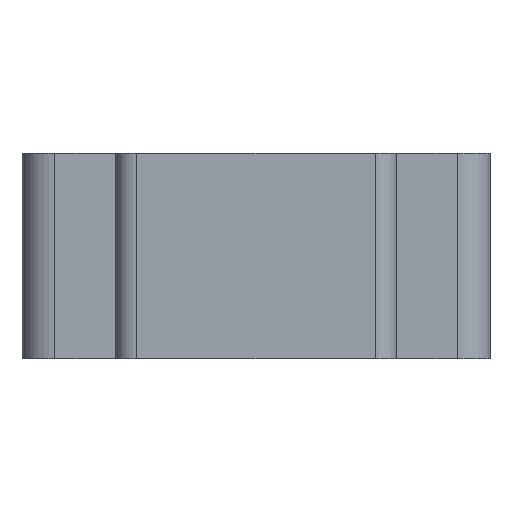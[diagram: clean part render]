
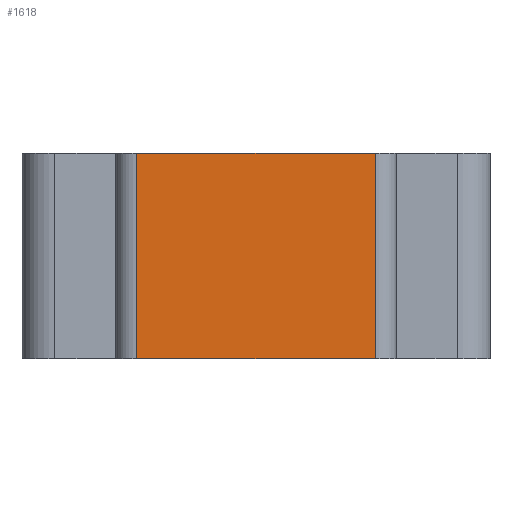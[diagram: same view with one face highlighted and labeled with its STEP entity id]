
A CAD part, front view. The second image highlights one B-rep face of the part: STEP entity #1618.
In plain terms, the highlighted planar face has unit normal (0, -1, 0).
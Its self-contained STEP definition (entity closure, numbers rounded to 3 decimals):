
#44 = PLANE('',#45);
#45 = AXIS2_PLACEMENT_3D('',#46,#47,#48);
#46 = CARTESIAN_POINT('',(-5.,8.3,8.45));
#47 = DIRECTION('',(0.,0.,1.));
#48 = DIRECTION('',(1.,0.,0.));
#100 = PLANE('',#101);
#101 = AXIS2_PLACEMENT_3D('',#102,#103,#104);
#102 = CARTESIAN_POINT('',(-5.,8.3,4.05));
#103 = DIRECTION('',(0.,0.,1.));
#104 = DIRECTION('',(1.,0.,0.));
#256 = VERTEX_POINT('',#257);
#257 = CARTESIAN_POINT('',(-2.55,-13.,8.45));
#272 = CYLINDRICAL_SURFACE('',#273,0.45);
#273 = AXIS2_PLACEMENT_3D('',#274,#275,#276);
#274 = CARTESIAN_POINT('',(-2.55,-12.55,4.05));
#275 = DIRECTION('',(0.,0.,1.));
#276 = DIRECTION('',(-1.,-0.,0.));
#284 = EDGE_CURVE('',#256,#285,#287,.T.);
#285 = VERTEX_POINT('',#286);
#286 = CARTESIAN_POINT('',(2.55,-13.,8.45));
#287 = SURFACE_CURVE('',#288,(#292,#299),.PCURVE_S1.);
#288 = LINE('',#289,#290);
#289 = CARTESIAN_POINT('',(-3.,-13.,8.45));
#290 = VECTOR('',#291,1.);
#291 = DIRECTION('',(1.,0.,0.));
#292 = PCURVE('',#44,#293);
#293 = DEFINITIONAL_REPRESENTATION('',(#294),#298);
#294 = LINE('',#295,#296);
#295 = CARTESIAN_POINT('',(2.,-21.3));
#296 = VECTOR('',#297,1.);
#297 = DIRECTION('',(1.,0.));
#298 = ( GEOMETRIC_REPRESENTATION_CONTEXT(2) 
PARAMETRIC_REPRESENTATION_CONTEXT() REPRESENTATION_CONTEXT('2D SPACE',''
  ) );
#299 = PCURVE('',#300,#305);
#300 = PLANE('',#301);
#301 = AXIS2_PLACEMENT_3D('',#302,#303,#304);
#302 = CARTESIAN_POINT('',(-3.,-13.,4.05));
#303 = DIRECTION('',(0.,1.,0.));
#304 = DIRECTION('',(0.,0.,1.));
#305 = DEFINITIONAL_REPRESENTATION('',(#306),#310);
#306 = LINE('',#307,#308);
#307 = CARTESIAN_POINT('',(4.4,0.));
#308 = VECTOR('',#309,1.);
#309 = DIRECTION('',(0.,1.));
#310 = ( GEOMETRIC_REPRESENTATION_CONTEXT(2) 
PARAMETRIC_REPRESENTATION_CONTEXT() REPRESENTATION_CONTEXT('2D SPACE',''
  ) );
#333 = CYLINDRICAL_SURFACE('',#334,0.45);
#334 = AXIS2_PLACEMENT_3D('',#335,#336,#337);
#335 = CARTESIAN_POINT('',(2.55,-12.55,4.05));
#336 = DIRECTION('',(0.,0.,1.));
#337 = DIRECTION('',(1.,0.,-0.));
#980 = VERTEX_POINT('',#981);
#981 = CARTESIAN_POINT('',(-2.55,-13.,4.05));
#1003 = EDGE_CURVE('',#980,#1004,#1006,.T.);
#1004 = VERTEX_POINT('',#1005);
#1005 = CARTESIAN_POINT('',(2.55,-13.,4.05));
#1006 = SURFACE_CURVE('',#1007,(#1011,#1018),.PCURVE_S1.);
#1007 = LINE('',#1008,#1009);
#1008 = CARTESIAN_POINT('',(-3.,-13.,4.05));
#1009 = VECTOR('',#1010,1.);
#1010 = DIRECTION('',(1.,0.,0.));
#1011 = PCURVE('',#100,#1012);
#1012 = DEFINITIONAL_REPRESENTATION('',(#1013),#1017);
#1013 = LINE('',#1014,#1015);
#1014 = CARTESIAN_POINT('',(2.,-21.3));
#1015 = VECTOR('',#1016,1.);
#1016 = DIRECTION('',(1.,0.));
#1017 = ( GEOMETRIC_REPRESENTATION_CONTEXT(2) 
PARAMETRIC_REPRESENTATION_CONTEXT() REPRESENTATION_CONTEXT('2D SPACE',''
  ) );
#1018 = PCURVE('',#300,#1019);
#1019 = DEFINITIONAL_REPRESENTATION('',(#1020),#1024);
#1020 = LINE('',#1021,#1022);
#1021 = CARTESIAN_POINT('',(0.,0.));
#1022 = VECTOR('',#1023,1.);
#1023 = DIRECTION('',(0.,1.));
#1024 = ( GEOMETRIC_REPRESENTATION_CONTEXT(2) 
PARAMETRIC_REPRESENTATION_CONTEXT() REPRESENTATION_CONTEXT('2D SPACE',''
  ) );
#1569 = EDGE_CURVE('',#980,#256,#1570,.T.);
#1570 = SURFACE_CURVE('',#1571,(#1575,#1582),.PCURVE_S1.);
#1571 = LINE('',#1572,#1573);
#1572 = CARTESIAN_POINT('',(-2.55,-13.,4.05));
#1573 = VECTOR('',#1574,1.);
#1574 = DIRECTION('',(0.,0.,1.));
#1575 = PCURVE('',#272,#1576);
#1576 = DEFINITIONAL_REPRESENTATION('',(#1577),#1581);
#1577 = LINE('',#1578,#1579);
#1578 = CARTESIAN_POINT('',(1.571,0.));
#1579 = VECTOR('',#1580,1.);
#1580 = DIRECTION('',(0.,1.));
#1581 = ( GEOMETRIC_REPRESENTATION_CONTEXT(2) 
PARAMETRIC_REPRESENTATION_CONTEXT() REPRESENTATION_CONTEXT('2D SPACE',''
  ) );
#1582 = PCURVE('',#300,#1583);
#1583 = DEFINITIONAL_REPRESENTATION('',(#1584),#1588);
#1584 = LINE('',#1585,#1586);
#1585 = CARTESIAN_POINT('',(0.,0.45));
#1586 = VECTOR('',#1587,1.);
#1587 = DIRECTION('',(1.,0.));
#1588 = ( GEOMETRIC_REPRESENTATION_CONTEXT(2) 
PARAMETRIC_REPRESENTATION_CONTEXT() REPRESENTATION_CONTEXT('2D SPACE',''
  ) );
#1618 = ADVANCED_FACE('',(#1619),#300,.F.);
#1619 = FACE_BOUND('',#1620,.F.);
#1620 = EDGE_LOOP('',(#1621,#1622,#1623,#1624));
#1621 = ORIENTED_EDGE('',*,*,#1003,.F.);
#1622 = ORIENTED_EDGE('',*,*,#1569,.T.);
#1623 = ORIENTED_EDGE('',*,*,#284,.T.);
#1624 = ORIENTED_EDGE('',*,*,#1625,.F.);
#1625 = EDGE_CURVE('',#1004,#285,#1626,.T.);
#1626 = SURFACE_CURVE('',#1627,(#1631,#1638),.PCURVE_S1.);
#1627 = LINE('',#1628,#1629);
#1628 = CARTESIAN_POINT('',(2.55,-13.,4.05));
#1629 = VECTOR('',#1630,1.);
#1630 = DIRECTION('',(0.,0.,1.));
#1631 = PCURVE('',#300,#1632);
#1632 = DEFINITIONAL_REPRESENTATION('',(#1633),#1637);
#1633 = LINE('',#1634,#1635);
#1634 = CARTESIAN_POINT('',(0.,5.55));
#1635 = VECTOR('',#1636,1.);
#1636 = DIRECTION('',(1.,0.));
#1637 = ( GEOMETRIC_REPRESENTATION_CONTEXT(2) 
PARAMETRIC_REPRESENTATION_CONTEXT() REPRESENTATION_CONTEXT('2D SPACE',''
  ) );
#1638 = PCURVE('',#333,#1639);
#1639 = DEFINITIONAL_REPRESENTATION('',(#1640),#1644);
#1640 = LINE('',#1641,#1642);
#1641 = CARTESIAN_POINT('',(-1.571,0.));
#1642 = VECTOR('',#1643,1.);
#1643 = DIRECTION('',(-0.,1.));
#1644 = ( GEOMETRIC_REPRESENTATION_CONTEXT(2) 
PARAMETRIC_REPRESENTATION_CONTEXT() REPRESENTATION_CONTEXT('2D SPACE',''
  ) );
